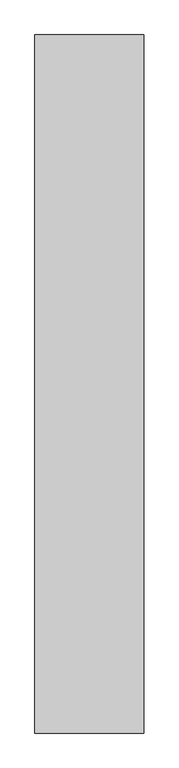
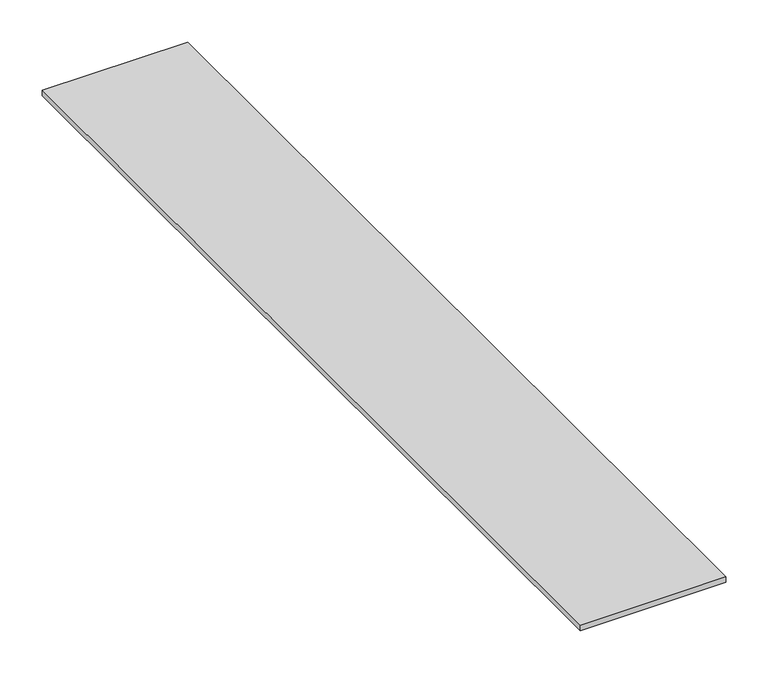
"""IFC4 building model written with IfcOpenShell, lengths in millimetres: proxy geometry, Фиброцементная сайдинг-панель LATONIT : 8 мм."""

from ifc_helpers import new_model, si_unit, frame, origin, place, context, project, spatial, polyline, outline, extrude, source, transform, mapped, element, save


def generic_models_54ea19ca(model_context):
    return source(origin(), model_context, "Body", "SweptSolid", [
        extrude(outline(polyline([(200.0, 1281.5), (200.0, 0.0), (0.0, 0.0), (0.0, 1281.5), (200.0, 1281.5)])), frame((0.0, 0.0, 242.0), z_axis=(0.0, 0.0, 1.0), x_axis=(1.0, 0.0, 0.0)), (0.0, 0.0, 1.0), 8.0),
    ])


if __name__ == "__main__":
    model = new_model("IFC4")
    model_context = context("Model", 3, world=origin())
    ifc_project = project(units=[si_unit("LENGTHUNIT", "METRE", prefix="MILLI")], contexts=[model_context])
    site = spatial("IfcSite", under=ifc_project)
    building = spatial("IfcBuilding", under=site)
    placement = place(None, origin())
    generic_models_shape = generic_models_54ea19ca(model_context)
    element("IfcBuildingElementProxy", 1, Name="Фиброцементная сайдинг-панель LATONIT : 8 мм", ObjectType="Фиброцементная сайдинг-панель LATONIT : 8 мм", at=placement, inside=building, context=model_context, shape_type="MappedRepresentation", body=[
        mapped(generic_models_shape, transform((0.0, 0.0, 0.0), x_axis=(1.0, 0.0, 0.0), y_axis=(0.0, 1.0, 0.0), z_axis=(0.0, 0.0, 1.0))),
    ])
    save(model, "model.ifc")
